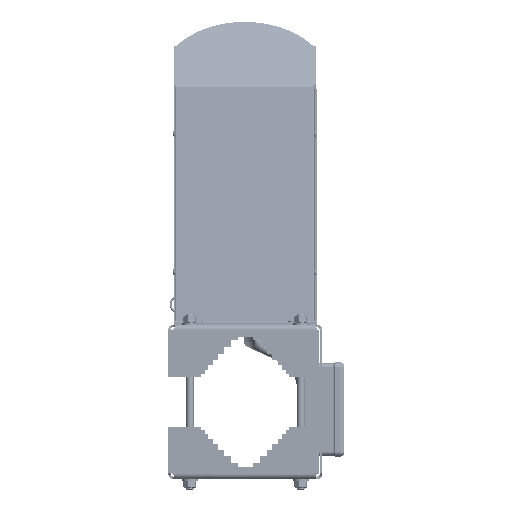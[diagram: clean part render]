
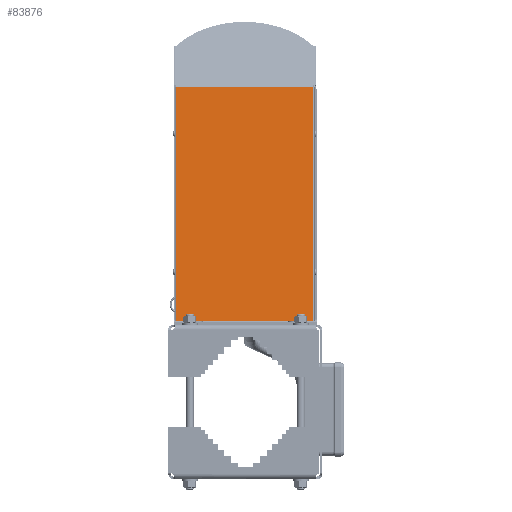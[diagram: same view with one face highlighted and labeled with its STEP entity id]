
A CAD part, front view. The second image highlights one B-rep face of the part: STEP entity #83876.
In plain terms, the highlighted planar face has unit normal (0, -0.996, 0.087).
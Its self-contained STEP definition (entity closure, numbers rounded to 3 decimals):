
#10146=FACE_OUTER_BOUND('',#15048,.T.);
#15048=EDGE_LOOP('',(#57231,#57232,#57233,#57234));
#20462=LINE('',#119728,#28004);
#20467=LINE('',#119747,#28009);
#20468=LINE('',#119753,#28010);
#20472=LINE('',#119763,#28014);
#28004=VECTOR('',#98241,10.);
#28009=VECTOR('',#98268,10.);
#28010=VECTOR('',#98277,10.);
#28014=VECTOR('',#98289,10.);
#35532=VERTEX_POINT('',#119725);
#35533=VERTEX_POINT('',#119727);
#35536=VERTEX_POINT('',#119746);
#35537=VERTEX_POINT('',#119751);
#43923=EDGE_CURVE('',#35533,#35532,#20462,.T.);
#43933=EDGE_CURVE('',#35536,#35533,#20467,.T.);
#43937=EDGE_CURVE('',#35532,#35537,#20468,.T.);
#43942=EDGE_CURVE('',#35537,#35536,#20472,.T.);
#57231=ORIENTED_EDGE('',*,*,#43942,.T.);
#57232=ORIENTED_EDGE('',*,*,#43933,.T.);
#57233=ORIENTED_EDGE('',*,*,#43923,.T.);
#57234=ORIENTED_EDGE('',*,*,#43937,.T.);
#81320=PLANE('',#90397);
#83876=ADVANCED_FACE('',(#10146),#81320,.F.);
#90397=AXIS2_PLACEMENT_3D('',#119762,#98287,#98288);
#98241=DIRECTION('',(-1.,0.,0.));
#98268=DIRECTION('',(0.,0.087,0.996));
#98277=DIRECTION('',(0.,-0.087,-0.996));
#98287=DIRECTION('center_axis',(0.,0.996,
-0.087));
#98288=DIRECTION('ref_axis',(0.,0.087,0.996));
#98289=DIRECTION('',(1.,0.,0.));
#119725=CARTESIAN_POINT('',(-105.,-243.479,360.981));
#119727=CARTESIAN_POINT('',(105.,-243.479,360.981));
#119728=CARTESIAN_POINT('',(52.5,-243.479,360.981));
#119746=CARTESIAN_POINT('',(105.,-274.879,2.08));
#119747=CARTESIAN_POINT('',(105.,-267.144,90.492));
#119751=CARTESIAN_POINT('',(-105.,-274.879,2.08));
#119753=CARTESIAN_POINT('',(-105.,-251.325,271.301));
#119762=CARTESIAN_POINT('Origin',(0.,-259.235,
180.896));
#119763=CARTESIAN_POINT('',(-53.,-274.879,2.08));
